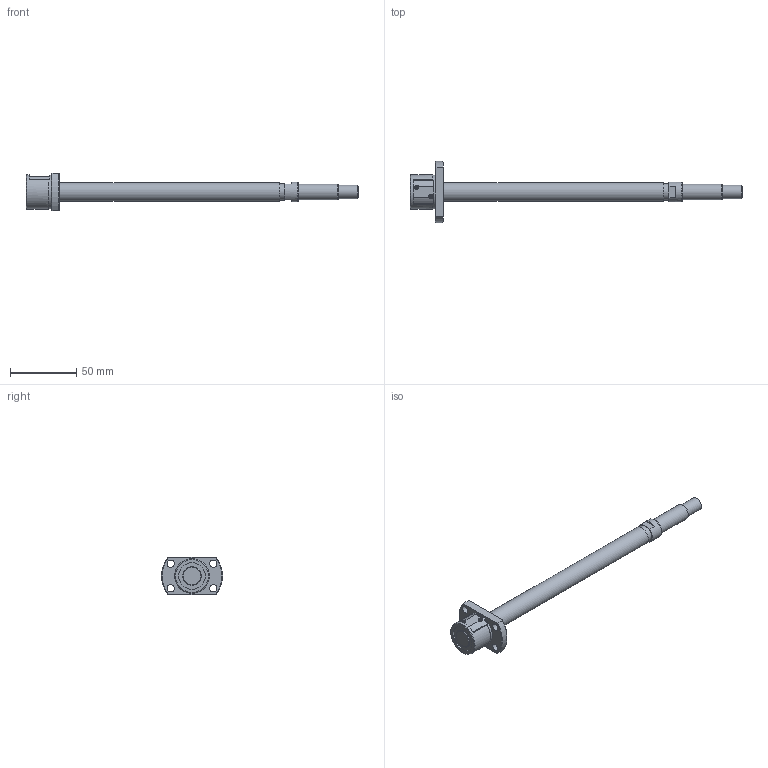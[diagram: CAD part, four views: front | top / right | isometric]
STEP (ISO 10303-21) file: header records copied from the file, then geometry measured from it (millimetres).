
FILE_DESCRIPTION( ( 'STEP AP203' ), '1' );
FILE_NAME( 'e:/temp/worker_93/temp/exporttempdir_5268_1159_AaVeB/format_0/SG1402-191R250C5A1X(0).stp', '2021-10-19T02:59:45', ( 'License CC BY-ND 4.0' ), ( 'CADENAS' ), ' ', 'PARTsolutions', ' ' );
FILE_SCHEMA( ( 'CONFIG_CONTROL_DESIGN' ) );
Length unit declared in the file: millimetre
Products named in the file (3): SG1402-191R250C5A1X(0); _SG1402-191R250C5A_shaft; _SG1402 C5_nut
Assembly tree (2 placements, depth 2):
  SG1402-191R250C5A1X(0)
    _SG1402-191R250C5A_shaft
    _SG1402 C5_nut
Bounding box: 250 x 46 x 28 mm (x, y, z)
Volume: 48402.6 mm3; surface area: 16811.5 mm2
Topology: 2 solids, 2 shells, 78 faces, 195 edges, 129 vertices
Faces by surface type: plane 38, cylinder 26, cone 13, torus 1
Full cylindrical faces by diameter (mm): 5.5 x4, 10 x1, 12 x1, 12.77 x1, 14 x2, 15 x1, 20 x2, 25.6 x1, 26 x1
Entity records: 2270 total; most frequent: CARTESIAN_POINT 433, DIRECTION 376, ORIENTED_EDGE 312, AXIS2_PLACEMENT_3D 157, EDGE_CURVE 156, EDGE_LOOP 120, VERTEX_POINT 114, FACE_OUTER_BOUND 93
